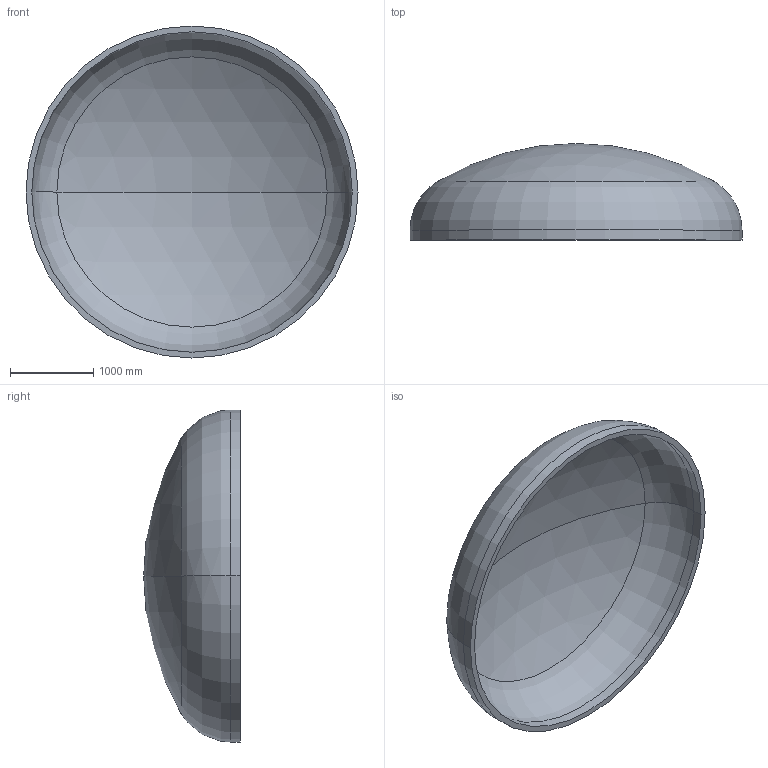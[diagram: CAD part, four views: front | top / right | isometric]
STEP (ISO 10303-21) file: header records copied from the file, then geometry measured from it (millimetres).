
FILE_DESCRIPTION (( 'STEP AP203' ), '1' );
FILE_NAME ('DIN 28013 Korbbogenform_-_Boden DIN 28013 - 4000 x 120 - I - s=70.step', '2016-07-01T22:37:20', ( '' ), ( '' ), 'SwSTEP 2.0', 'SolidWorks 2013', '' );
FILE_SCHEMA (( 'CONFIG_CONTROL_DESIGN' ));
Length unit declared in the file: millimetre
Products named in the file (1): DIN 28013 Korbbogenform_-_Boden DIN 28013 - 4000 x 120 - I - s=70
Bounding box: 4000 x 1164.47 x 4000 mm (x, y, z)
Volume: 1293831609 mm3; surface area: 37841118.9 mm2
Topology: 1 solids, 1 shells, 13 faces, 24 edges, 14 vertices
Faces by surface type: torus 4, cylinder 4, sphere 4, plane 1
Entity records: 407 total; most frequent: DIRECTION 72, CARTESIAN_POINT 52, ORIENTED_EDGE 48, AXIS2_PLACEMENT_3D 34, EDGE_CURVE 24, CIRCLE 20, VERTEX_POINT 14, EDGE_LOOP 14
